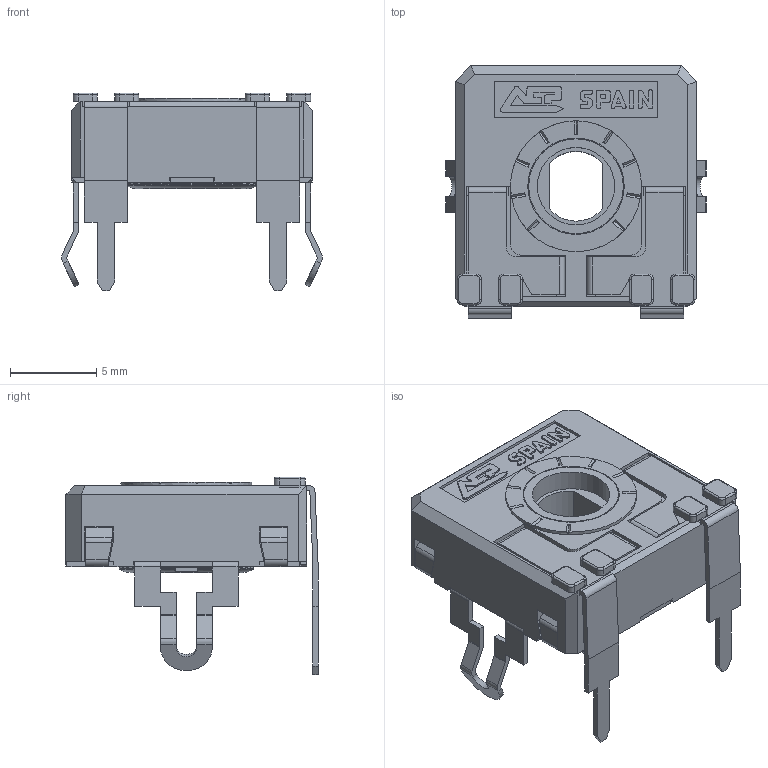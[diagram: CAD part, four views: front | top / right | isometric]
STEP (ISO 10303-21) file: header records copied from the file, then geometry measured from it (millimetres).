
FILE_DESCRIPTION(/* description */ (''),/* implementation_level */ '2;1');
FILE_NAME(/* name */ 'C:\Users\CEM\Desktop\ENVIAR\TRANSICION 3D CATALOGOS\RS14ZVD7,5.stp',/* time_stamp */ '2025-12-10T11:33:36+01:00',/* author */ ('CEM'),/* organization */ (''),/* preprocessor_version */ 'ST-DEVELOPER v16.13',/* originating_system */ 'Autodesk Inventor 2018',/* authorisation */ '');
FILE_SCHEMA (('AUTOMOTIVE_DESIGN { 1 0 10303 214 3 1 1 }'));
Length unit declared in the file: millimetre
Products named in the file (1): CARCASA CA14 PGA
Bounding box: 15.16 x 14.65 x 11.5 mm (x, y, z)
Volume: 533.3 mm3; surface area: 1537.5 mm2
Topology: 1 solids, 1 shells, 729 faces, 2064 edges, 1328 vertices
Faces by surface type: plane 531, cylinder 161, torus 23, bspline 8, cone 6
Full cylindrical faces by diameter (mm): 4.5 x1, 5.5 x1, 5.6 x1, 5.752 x1, 6.8 x1, 7.6 x1
Entity records: 23753 total; most frequent: CARTESIAN_POINT 4316, ORIENTED_EDGE 4100, DIRECTION 3878, EDGE_CURVE 2050, LINE 1610, VECTOR 1610, VERTEX_POINT 1324, AXIS2_PLACEMENT_3D 1134
